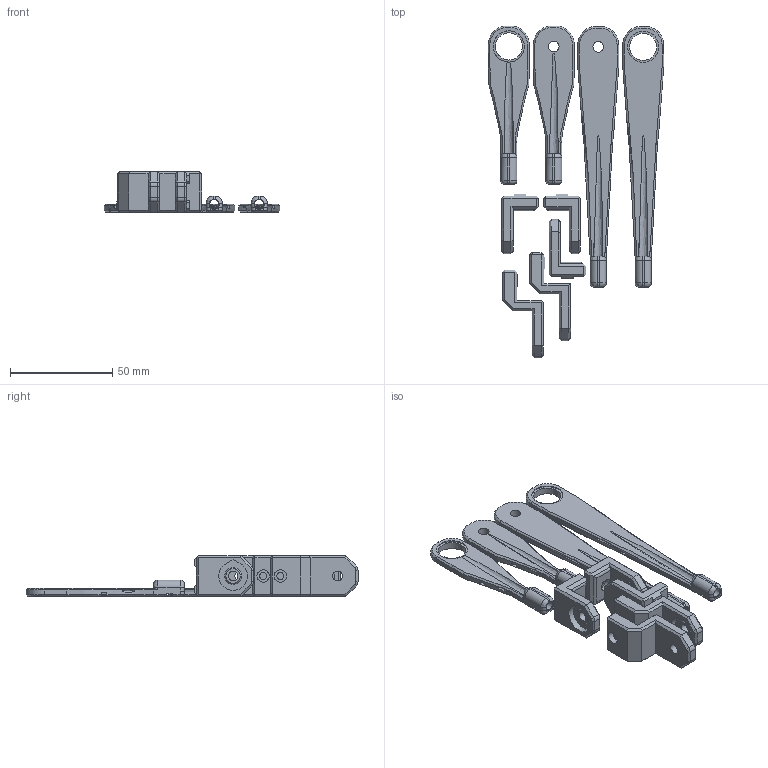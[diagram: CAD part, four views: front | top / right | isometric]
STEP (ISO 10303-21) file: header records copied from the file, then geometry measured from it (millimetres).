
FILE_DESCRIPTION(/* description */ (''),/* implementation_level */ '2;1');
FILE_NAME(/* name */ 'Bowden_Guide V2.step',/* time_stamp */ '2024-11-07T16:16:54+11:00',/* author */ (''),/* organization */ (''),/* preprocessor_version */ 'ST-DEVELOPER v20',/* originating_system */ 'Autodesk Translation Framework v13.20.0.188',/* authorisation */ '');
FILE_SCHEMA (('AUTOMOTIVE_DESIGN { 1 0 10303 214 3 1 1 }'));
Length unit declared in the file: millimetre
Products named in the file (11): Bowden_Guide V2; Long_Arm; Short_Arm v1; Mount v1; Mount; Mount_Bearing; Long Arm Bearing; Short_Arm_Bearing; Low_Mount_Bearing; Under_extrusion_mount_bearing; Under_extrusion_mount
Assembly tree (10 placements, depth 3):
  Bowden_Guide V2
    Long_Arm
    Short_Arm v1
      Mount v1
    Mount
    Mount_Bearing
    Long Arm Bearing
    Short_Arm_Bearing
    Low_Mount_Bearing
    Under_extrusion_mount_bearing
    Under_extrusion_mount
Bounding box: 85.76 x 162.39 x 20 mm (x, y, z)
Volume: 42689 mm3; surface area: 29593.7 mm2
Topology: 9 solids, 9 shells, 561 faces, 1437 edges, 872 vertices
Faces by surface type: plane 359, cylinder 91, bspline 56, cone 55
Full cylindrical faces by diameter (mm): 1.2 x8, 3.4 x5, 4.4 x4, 4.65 x3, 4.85 x2, 5.2 x2, 6 x5, 13.3 x2, 15.3 x2
Entity records: 21889 total; most frequent: CARTESIAN_POINT 8376, ORIENTED_EDGE 2874, DIRECTION 2542, EDGE_CURVE 1437, LINE 982, VECTOR 982, VERTEX_POINT 872, AXIS2_PLACEMENT_3D 780
